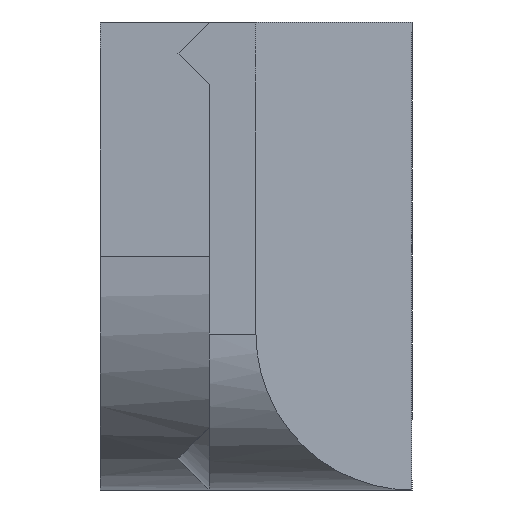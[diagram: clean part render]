
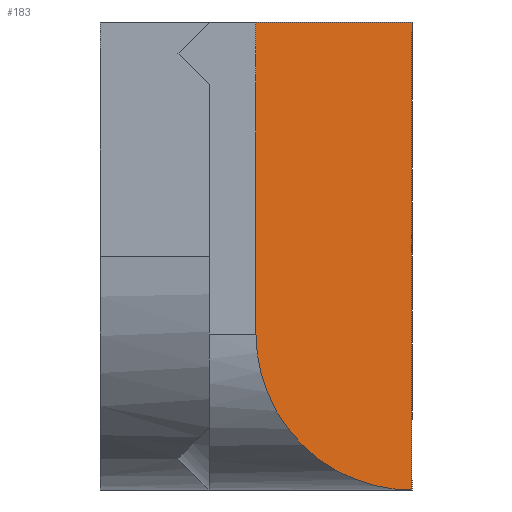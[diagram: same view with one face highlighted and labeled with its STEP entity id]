
A CAD part, left-side view. The second image highlights one B-rep face of the part: STEP entity #183.
In plain terms, the highlighted planar face has unit normal (-0.707, -0.707, 0).
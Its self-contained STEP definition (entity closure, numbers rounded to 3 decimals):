
#68 = CARTESIAN_POINT ( 'NONE',  ( 0., -0.6, 6. ) ) ;
#107 = AXIS2_PLACEMENT_3D ( 'NONE', #449, #864, #657 ) ;
#158 = VECTOR ( 'NONE', #733, 1000. ) ;
#168 = VERTEX_POINT ( 'NONE', #921 ) ;
#183 = ADVANCED_FACE ( 'NONE', ( #670 ), #498, .F. ) ;
#195 =( BOUNDED_CURVE ( )  B_SPLINE_CURVE ( 3, ( #361, #784, #280, #439 ),
 .UNSPECIFIED., .F., .F. ) 
 B_SPLINE_CURVE_WITH_KNOTS ( ( 4, 4 ),
 ( 3.142, 4.712 ),
 .UNSPECIFIED. ) 
 CURVE ( )  GEOMETRIC_REPRESENTATION_ITEM ( )  RATIONAL_B_SPLINE_CURVE ( ( 1., 0.805, 0.805, 1. ) ) 
 REPRESENTATION_ITEM ( '' )  );
#200 = EDGE_CURVE ( 'NONE', #870, #168, #806, .T. ) ;
#280 = CARTESIAN_POINT ( 'NONE',  ( 0.828, -1.428, 0. ) ) ;
#308 = CARTESIAN_POINT ( 'NONE',  ( 2., -2.6, 6. ) ) ;
#335 = EDGE_CURVE ( 'NONE', #441, #359, #195, .T. ) ;
#351 = ORIENTED_EDGE ( 'NONE', *, *, #903, .T. ) ;
#359 = VERTEX_POINT ( 'NONE', #653 ) ;
#360 = DIRECTION ( 'NONE',  ( 0., 0., -1. ) ) ;
#361 = CARTESIAN_POINT ( 'NONE',  ( 0., -0.6, 2. ) ) ;
#366 = ORIENTED_EDGE ( 'NONE', *, *, #526, .F. ) ;
#410 = VECTOR ( 'NONE', #515, 1000. ) ;
#439 = CARTESIAN_POINT ( 'NONE',  ( 2., -2.6, 0. ) ) ;
#441 = VERTEX_POINT ( 'NONE', #590 ) ;
#449 = CARTESIAN_POINT ( 'NONE',  ( 2., -2.6, 6. ) ) ;
#459 = CARTESIAN_POINT ( 'NONE',  ( 2., -2.6, 6. ) ) ;
#498 = PLANE ( 'NONE',  #107 ) ;
#515 = DIRECTION ( 'NONE',  ( 0.707, -0.707, 0. ) ) ;
#526 = EDGE_CURVE ( 'NONE', #168, #359, #877, .T. ) ;
#543 = VECTOR ( 'NONE', #360, 1000. ) ;
#569 = CARTESIAN_POINT ( 'NONE',  ( 0., -0.6, 6. ) ) ;
#590 = CARTESIAN_POINT ( 'NONE',  ( 0., -0.6, 2. ) ) ;
#653 = CARTESIAN_POINT ( 'NONE',  ( 2., -2.6, 0. ) ) ;
#657 = DIRECTION ( 'NONE',  ( -0.707, 0.707, 0. ) ) ;
#670 = FACE_OUTER_BOUND ( 'NONE', #842, .T. ) ;
#731 = ORIENTED_EDGE ( 'NONE', *, *, #200, .F. ) ;
#733 = DIRECTION ( 'NONE',  ( 0., 0., -1. ) ) ;
#749 = LINE ( 'NONE', #68, #543 ) ;
#784 = CARTESIAN_POINT ( 'NONE',  ( 0., -0.6, 0.828 ) ) ;
#786 = ORIENTED_EDGE ( 'NONE', *, *, #335, .T. ) ;
#806 = LINE ( 'NONE', #459, #410 ) ;
#842 = EDGE_LOOP ( 'NONE', ( #351, #786, #366, #731 ) ) ;
#864 = DIRECTION ( 'NONE',  ( 0.707, 0.707, 0. ) ) ;
#870 = VERTEX_POINT ( 'NONE', #569 ) ;
#877 = LINE ( 'NONE', #308, #158 ) ;
#903 = EDGE_CURVE ( 'NONE', #870, #441, #749, .T. ) ;
#921 = CARTESIAN_POINT ( 'NONE',  ( 2., -2.6, 6. ) ) ;
